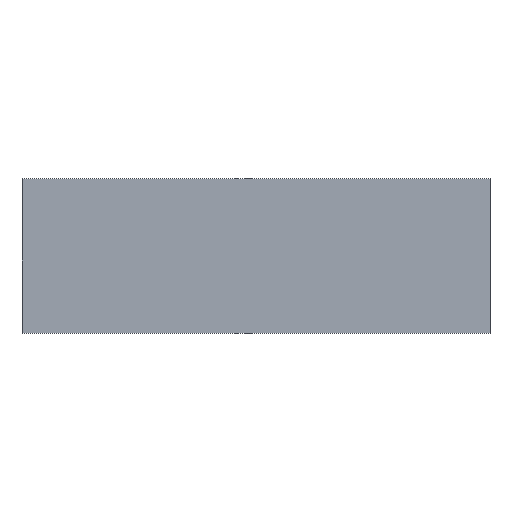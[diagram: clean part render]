
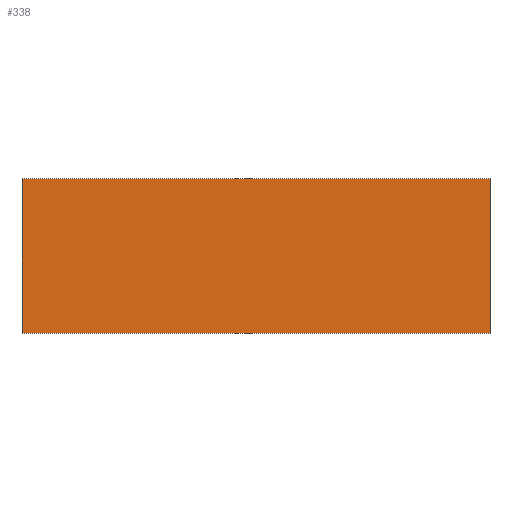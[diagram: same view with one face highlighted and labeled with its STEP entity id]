
A CAD part, top view. The second image highlights one B-rep face of the part: STEP entity #338.
In plain terms, the highlighted planar face has unit normal (0, 0, 1).
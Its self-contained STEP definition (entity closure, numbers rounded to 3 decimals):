
#24 = VERTEX_POINT('',#25);
#25 = CARTESIAN_POINT('',(-82.55,-27.3,11.5));
#32 = PLANE('',#33);
#33 = AXIS2_PLACEMENT_3D('',#34,#35,#36);
#34 = CARTESIAN_POINT('',(-82.55,-27.3,3.));
#35 = DIRECTION('',(1.,0.,0.));
#36 = DIRECTION('',(0.,0.,1.));
#44 = PLANE('',#45);
#45 = AXIS2_PLACEMENT_3D('',#46,#47,#48);
#46 = CARTESIAN_POINT('',(-82.55,-27.3,3.));
#47 = DIRECTION('',(0.,1.,0.));
#48 = DIRECTION('',(0.,0.,1.));
#85 = VERTEX_POINT('',#86);
#86 = CARTESIAN_POINT('',(-82.55,27.3,11.5));
#100 = PLANE('',#101);
#101 = AXIS2_PLACEMENT_3D('',#102,#103,#104);
#102 = CARTESIAN_POINT('',(-82.55,27.3,3.));
#103 = DIRECTION('',(0.,1.,0.));
#104 = DIRECTION('',(0.,0.,1.));
#112 = EDGE_CURVE('',#24,#85,#113,.T.);
#113 = SURFACE_CURVE('',#114,(#118,#125),.PCURVE_S1.);
#114 = LINE('',#115,#116);
#115 = CARTESIAN_POINT('',(-82.55,-27.3,11.5));
#116 = VECTOR('',#117,1.);
#117 = DIRECTION('',(0.,1.,0.));
#118 = PCURVE('',#32,#119);
#119 = DEFINITIONAL_REPRESENTATION('',(#120),#124);
#120 = LINE('',#121,#122);
#121 = CARTESIAN_POINT('',(8.5,0.));
#122 = VECTOR('',#123,1.);
#123 = DIRECTION('',(0.,-1.));
#124 = ( GEOMETRIC_REPRESENTATION_CONTEXT(2) 
PARAMETRIC_REPRESENTATION_CONTEXT() REPRESENTATION_CONTEXT('2D SPACE',''
  ) );
#125 = PCURVE('',#126,#131);
#126 = PLANE('',#127);
#127 = AXIS2_PLACEMENT_3D('',#128,#129,#130);
#128 = CARTESIAN_POINT('',(-82.55,-27.3,11.5));
#129 = DIRECTION('',(0.,0.,1.));
#130 = DIRECTION('',(1.,0.,0.));
#131 = DEFINITIONAL_REPRESENTATION('',(#132),#136);
#132 = LINE('',#133,#134);
#133 = CARTESIAN_POINT('',(0.,0.));
#134 = VECTOR('',#135,1.);
#135 = DIRECTION('',(0.,1.));
#136 = ( GEOMETRIC_REPRESENTATION_CONTEXT(2) 
PARAMETRIC_REPRESENTATION_CONTEXT() REPRESENTATION_CONTEXT('2D SPACE',''
  ) );
#144 = VERTEX_POINT('',#145);
#145 = CARTESIAN_POINT('',(82.55,-27.3,11.5));
#152 = PLANE('',#153);
#153 = AXIS2_PLACEMENT_3D('',#154,#155,#156);
#154 = CARTESIAN_POINT('',(82.55,-27.3,3.));
#155 = DIRECTION('',(1.,0.,0.));
#156 = DIRECTION('',(0.,0.,1.));
#195 = VERTEX_POINT('',#196);
#196 = CARTESIAN_POINT('',(82.55,27.3,11.5));
#217 = EDGE_CURVE('',#144,#195,#218,.T.);
#218 = SURFACE_CURVE('',#219,(#223,#230),.PCURVE_S1.);
#219 = LINE('',#220,#221);
#220 = CARTESIAN_POINT('',(82.55,-27.3,11.5));
#221 = VECTOR('',#222,1.);
#222 = DIRECTION('',(0.,1.,0.));
#223 = PCURVE('',#152,#224);
#224 = DEFINITIONAL_REPRESENTATION('',(#225),#229);
#225 = LINE('',#226,#227);
#226 = CARTESIAN_POINT('',(8.5,0.));
#227 = VECTOR('',#228,1.);
#228 = DIRECTION('',(0.,-1.));
#229 = ( GEOMETRIC_REPRESENTATION_CONTEXT(2) 
PARAMETRIC_REPRESENTATION_CONTEXT() REPRESENTATION_CONTEXT('2D SPACE',''
  ) );
#230 = PCURVE('',#126,#231);
#231 = DEFINITIONAL_REPRESENTATION('',(#232),#236);
#232 = LINE('',#233,#234);
#233 = CARTESIAN_POINT('',(165.1,0.));
#234 = VECTOR('',#235,1.);
#235 = DIRECTION('',(0.,1.));
#236 = ( GEOMETRIC_REPRESENTATION_CONTEXT(2) 
PARAMETRIC_REPRESENTATION_CONTEXT() REPRESENTATION_CONTEXT('2D SPACE',''
  ) );
#263 = EDGE_CURVE('',#24,#144,#264,.T.);
#264 = SURFACE_CURVE('',#265,(#269,#276),.PCURVE_S1.);
#265 = LINE('',#266,#267);
#266 = CARTESIAN_POINT('',(-82.55,-27.3,11.5));
#267 = VECTOR('',#268,1.);
#268 = DIRECTION('',(1.,0.,0.));
#269 = PCURVE('',#44,#270);
#270 = DEFINITIONAL_REPRESENTATION('',(#271),#275);
#271 = LINE('',#272,#273);
#272 = CARTESIAN_POINT('',(8.5,0.));
#273 = VECTOR('',#274,1.);
#274 = DIRECTION('',(0.,1.));
#275 = ( GEOMETRIC_REPRESENTATION_CONTEXT(2) 
PARAMETRIC_REPRESENTATION_CONTEXT() REPRESENTATION_CONTEXT('2D SPACE',''
  ) );
#276 = PCURVE('',#126,#277);
#277 = DEFINITIONAL_REPRESENTATION('',(#278),#282);
#278 = LINE('',#279,#280);
#279 = CARTESIAN_POINT('',(0.,0.));
#280 = VECTOR('',#281,1.);
#281 = DIRECTION('',(1.,0.));
#282 = ( GEOMETRIC_REPRESENTATION_CONTEXT(2) 
PARAMETRIC_REPRESENTATION_CONTEXT() REPRESENTATION_CONTEXT('2D SPACE',''
  ) );
#310 = EDGE_CURVE('',#85,#195,#311,.T.);
#311 = SURFACE_CURVE('',#312,(#316,#323),.PCURVE_S1.);
#312 = LINE('',#313,#314);
#313 = CARTESIAN_POINT('',(-82.55,27.3,11.5));
#314 = VECTOR('',#315,1.);
#315 = DIRECTION('',(1.,0.,0.));
#316 = PCURVE('',#100,#317);
#317 = DEFINITIONAL_REPRESENTATION('',(#318),#322);
#318 = LINE('',#319,#320);
#319 = CARTESIAN_POINT('',(8.5,0.));
#320 = VECTOR('',#321,1.);
#321 = DIRECTION('',(0.,1.));
#322 = ( GEOMETRIC_REPRESENTATION_CONTEXT(2) 
PARAMETRIC_REPRESENTATION_CONTEXT() REPRESENTATION_CONTEXT('2D SPACE',''
  ) );
#323 = PCURVE('',#126,#324);
#324 = DEFINITIONAL_REPRESENTATION('',(#325),#329);
#325 = LINE('',#326,#327);
#326 = CARTESIAN_POINT('',(0.,54.6));
#327 = VECTOR('',#328,1.);
#328 = DIRECTION('',(1.,0.));
#329 = ( GEOMETRIC_REPRESENTATION_CONTEXT(2) 
PARAMETRIC_REPRESENTATION_CONTEXT() REPRESENTATION_CONTEXT('2D SPACE',''
  ) );
#338 = ADVANCED_FACE('',(#339),#126,.T.);
#339 = FACE_BOUND('',#340,.T.);
#340 = EDGE_LOOP('',(#341,#342,#343,#344));
#341 = ORIENTED_EDGE('',*,*,#112,.F.);
#342 = ORIENTED_EDGE('',*,*,#263,.T.);
#343 = ORIENTED_EDGE('',*,*,#217,.T.);
#344 = ORIENTED_EDGE('',*,*,#310,.F.);
